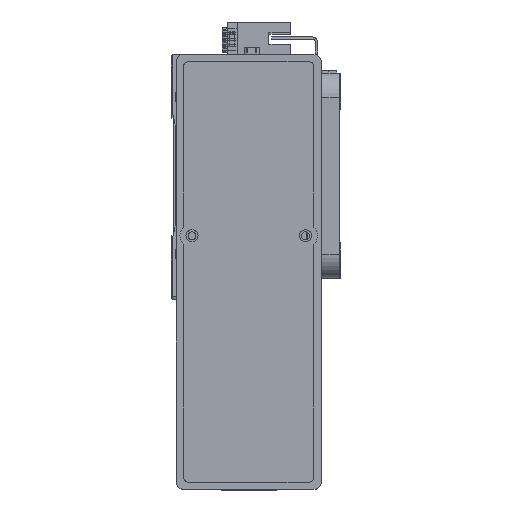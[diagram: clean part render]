
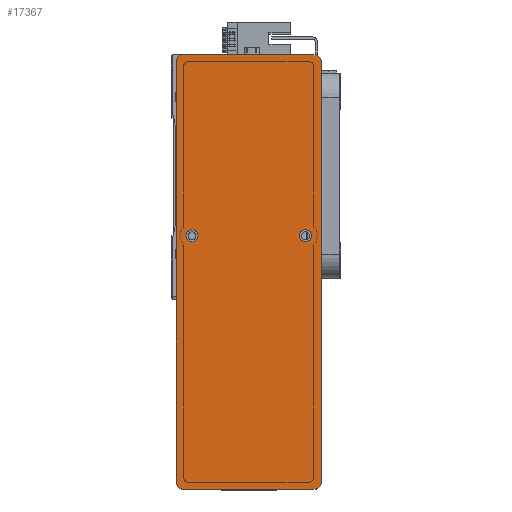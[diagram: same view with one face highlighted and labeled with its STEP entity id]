
A CAD part, top view. The second image highlights one B-rep face of the part: STEP entity #17367.
In plain terms, the highlighted planar face has unit normal (0, 0, 1) as drawn and (0, 0, -1) by its records, which use the part's own axes.
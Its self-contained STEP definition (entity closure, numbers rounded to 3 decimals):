
#28 = AXIS2_PLACEMENT_3D ( 'NONE', #37567, #10334, #42087 ) ;
#908 = CARTESIAN_POINT ( 'NONE',  ( 87., -30., 0. ) ) ;
#1015 = CARTESIAN_POINT ( 'NONE',  ( -90., -27., 0. ) ) ;
#1259 = ORIENTED_EDGE ( 'NONE', *, *, #5560, .F. ) ;
#1542 = VERTEX_POINT ( 'NONE', #11424 ) ;
#2491 = AXIS2_PLACEMENT_3D ( 'NONE', #20423, #52222, #25009 ) ;
#2831 = CIRCLE ( 'NONE', #22859, 2.5 ) ;
#3907 = ORIENTED_EDGE ( 'NONE', *, *, #46685, .F. ) ;
#4489 = CARTESIAN_POINT ( 'NONE',  ( -90., -30., 0. ) ) ;
#5560 = EDGE_CURVE ( 'NONE', #14056, #49493, #48835, .T. ) ;
#7421 = CARTESIAN_POINT ( 'NONE',  ( -87., 30., 0. ) ) ;
#7529 = PLANE ( 'NONE',  #25052 ) ;
#7899 = AXIS2_PLACEMENT_3D ( 'NONE', #8281, #40087, #12887 ) ;
#8281 = CARTESIAN_POINT ( 'NONE',  ( -15., 23.5, 0. ) ) ;
#8510 = AXIS2_PLACEMENT_3D ( 'NONE', #52709, #25512, #57272 ) ;
#8750 = CARTESIAN_POINT ( 'NONE',  ( -15., -23.5, 0. ) ) ;
#8774 = CIRCLE ( 'NONE', #26564, 3. ) ;
#9222 = VERTEX_POINT ( 'NONE', #52309 ) ;
#9481 = VECTOR ( 'NONE', #50688, 1000. ) ;
#10065 = CARTESIAN_POINT ( 'NONE',  ( -15., 23.5, 0. ) ) ;
#10334 = DIRECTION ( 'NONE',  ( 0., 0., -1. ) ) ;
#10570 = VECTOR ( 'NONE', #46369, 1000. ) ;
#10828 = CARTESIAN_POINT ( 'NONE',  ( 90., 27., 0. ) ) ;
#11169 = FACE_BOUND ( 'NONE', #14930, .T. ) ;
#11424 = CARTESIAN_POINT ( 'NONE',  ( -12.5, -23.5, 0. ) ) ;
#11835 = EDGE_CURVE ( 'NONE', #55303, #41861, #30126, .T. ) ;
#12179 = CARTESIAN_POINT ( 'NONE',  ( -17.5, 23.5, 0. ) ) ;
#12630 = FACE_BOUND ( 'NONE', #17962, .T. ) ;
#12887 = DIRECTION ( 'NONE',  ( -1., 0., 0. ) ) ;
#13334 = CARTESIAN_POINT ( 'NONE',  ( -15., -23.5, 0. ) ) ;
#13350 = DIRECTION ( 'NONE',  ( -1., 0., 0. ) ) ;
#14056 = VERTEX_POINT ( 'NONE', #51143 ) ;
#14671 = DIRECTION ( 'NONE',  ( -1., 0., 0. ) ) ;
#14930 = EDGE_LOOP ( 'NONE', ( #56513, #25403 ) ) ;
#15459 = ORIENTED_EDGE ( 'NONE', *, *, #11835, .F. ) ;
#16543 = VERTEX_POINT ( 'NONE', #908 ) ;
#17367 = ADVANCED_FACE ( 'NONE', ( #12630, #11169, #36749 ), #7529, .F. ) ;
#17856 = DIRECTION ( 'NONE',  ( -1., 0., 0. ) ) ;
#17962 = EDGE_LOOP ( 'NONE', ( #3907, #1259 ) ) ;
#18263 = CARTESIAN_POINT ( 'NONE',  ( -17.5, -23.5, 0. ) ) ;
#18309 = EDGE_CURVE ( 'NONE', #44235, #16543, #44303, .T. ) ;
#18912 = CARTESIAN_POINT ( 'NONE',  ( -87., -27., 0. ) ) ;
#19277 = CARTESIAN_POINT ( 'NONE',  ( 90., -30., 0. ) ) ;
#19805 = AXIS2_PLACEMENT_3D ( 'NONE', #10065, #41822, #14671 ) ;
#20389 = VECTOR ( 'NONE', #40794, 1000. ) ;
#20423 = CARTESIAN_POINT ( 'NONE',  ( -87., 27., 0. ) ) ;
#22393 = EDGE_CURVE ( 'NONE', #44235, #32437, #8774, .T. ) ;
#22859 = AXIS2_PLACEMENT_3D ( 'NONE', #13334, #45056, #17856 ) ;
#23401 = ORIENTED_EDGE ( 'NONE', *, *, #44377, .F. ) ;
#23484 = DIRECTION ( 'NONE',  ( 1., 0., 0. ) ) ;
#23866 = CARTESIAN_POINT ( 'NONE',  ( 90., -27., 0. ) ) ;
#25009 = DIRECTION ( 'NONE',  ( 1., 0., 0. ) ) ;
#25052 = AXIS2_PLACEMENT_3D ( 'NONE', #53002, #25787, #57549 ) ;
#25403 = ORIENTED_EDGE ( 'NONE', *, *, #29849, .F. ) ;
#25512 = DIRECTION ( 'NONE',  ( 0., 0., -1. ) ) ;
#25787 = DIRECTION ( 'NONE',  ( 0., 0., 1. ) ) ;
#25962 = CARTESIAN_POINT ( 'NONE',  ( -87., -30., 0. ) ) ;
#26564 = AXIS2_PLACEMENT_3D ( 'NONE', #18912, #50721, #23484 ) ;
#29301 = CIRCLE ( 'NONE', #58100, 2.5 ) ;
#29657 = CIRCLE ( 'NONE', #2491, 3. ) ;
#29849 = EDGE_CURVE ( 'NONE', #1542, #49641, #2831, .T. ) ;
#30126 = LINE ( 'NONE', #40192, #54304 ) ;
#30798 = DIRECTION ( 'NONE',  ( -1., 0., 0. ) ) ;
#31007 = ORIENTED_EDGE ( 'NONE', *, *, #36342, .T. ) ;
#31069 = LINE ( 'NONE', #4489, #20389 ) ;
#31071 = ORIENTED_EDGE ( 'NONE', *, *, #38231, .F. ) ;
#31714 = CARTESIAN_POINT ( 'NONE',  ( 87., 30., 0. ) ) ;
#31953 = EDGE_LOOP ( 'NONE', ( #23401, #48235, #40191, #38740, #31071, #40347, #15459, #31007 ) ) ;
#32437 = VERTEX_POINT ( 'NONE', #1015 ) ;
#34730 = LINE ( 'NONE', #41811, #10570 ) ;
#36342 = EDGE_CURVE ( 'NONE', #55303, #54894, #39924, .T. ) ;
#36749 = FACE_OUTER_BOUND ( 'NONE', #31953, .T. ) ;
#37567 = CARTESIAN_POINT ( 'NONE',  ( 87., 27., 0. ) ) ;
#38231 = EDGE_CURVE ( 'NONE', #9222, #32437, #31069, .T. ) ;
#38514 = EDGE_CURVE ( 'NONE', #9222, #41861, #29657, .T. ) ;
#38740 = ORIENTED_EDGE ( 'NONE', *, *, #22393, .T. ) ;
#39924 = CIRCLE ( 'NONE', #28, 3. ) ;
#40087 = DIRECTION ( 'NONE',  ( 0., 0., -1. ) ) ;
#40101 = VERTEX_POINT ( 'NONE', #23866 ) ;
#40191 = ORIENTED_EDGE ( 'NONE', *, *, #18309, .F. ) ;
#40192 = CARTESIAN_POINT ( 'NONE',  ( 90., 30., 0. ) ) ;
#40347 = ORIENTED_EDGE ( 'NONE', *, *, #38514, .T. ) ;
#40538 = DIRECTION ( 'NONE',  ( 0., 0., -1. ) ) ;
#40794 = DIRECTION ( 'NONE',  ( 0., -1., 0. ) ) ;
#41811 = CARTESIAN_POINT ( 'NONE',  ( 90., -30., 0. ) ) ;
#41822 = DIRECTION ( 'NONE',  ( 0., 0., -1. ) ) ;
#41861 = VERTEX_POINT ( 'NONE', #7421 ) ;
#42087 = DIRECTION ( 'NONE',  ( 1., 0., 0. ) ) ;
#44235 = VERTEX_POINT ( 'NONE', #25962 ) ;
#44303 = LINE ( 'NONE', #19277, #9481 ) ;
#44377 = EDGE_CURVE ( 'NONE', #40101, #54894, #34730, .T. ) ;
#45056 = DIRECTION ( 'NONE',  ( 0., 0., -1. ) ) ;
#46155 = EDGE_CURVE ( 'NONE', #49641, #1542, #29301, .T. ) ;
#46369 = DIRECTION ( 'NONE',  ( 0., 1., 0. ) ) ;
#46685 = EDGE_CURVE ( 'NONE', #49493, #14056, #47004, .T. ) ;
#47004 = CIRCLE ( 'NONE', #7899, 2.5 ) ;
#48235 = ORIENTED_EDGE ( 'NONE', *, *, #50110, .T. ) ;
#48835 = CIRCLE ( 'NONE', #19805, 2.5 ) ;
#49493 = VERTEX_POINT ( 'NONE', #12179 ) ;
#49641 = VERTEX_POINT ( 'NONE', #18263 ) ;
#50110 = EDGE_CURVE ( 'NONE', #40101, #16543, #55045, .T. ) ;
#50688 = DIRECTION ( 'NONE',  ( 1., 0., 0. ) ) ;
#50721 = DIRECTION ( 'NONE',  ( 0., 0., -1. ) ) ;
#51143 = CARTESIAN_POINT ( 'NONE',  ( -12.5, 23.5, 0. ) ) ;
#52222 = DIRECTION ( 'NONE',  ( 0., 0., -1. ) ) ;
#52309 = CARTESIAN_POINT ( 'NONE',  ( -90., 27., 0. ) ) ;
#52709 = CARTESIAN_POINT ( 'NONE',  ( 87., -27., 0. ) ) ;
#53002 = CARTESIAN_POINT ( 'NONE',  ( 0., 0., 0. ) ) ;
#54304 = VECTOR ( 'NONE', #30798, 1000. ) ;
#54894 = VERTEX_POINT ( 'NONE', #10828 ) ;
#55045 = CIRCLE ( 'NONE', #8510, 3. ) ;
#55303 = VERTEX_POINT ( 'NONE', #31714 ) ;
#56513 = ORIENTED_EDGE ( 'NONE', *, *, #46155, .F. ) ;
#57272 = DIRECTION ( 'NONE',  ( 1., 0., 0. ) ) ;
#57549 = DIRECTION ( 'NONE',  ( 1., 0., 0. ) ) ;
#58100 = AXIS2_PLACEMENT_3D ( 'NONE', #8750, #40538, #13350 ) ;
